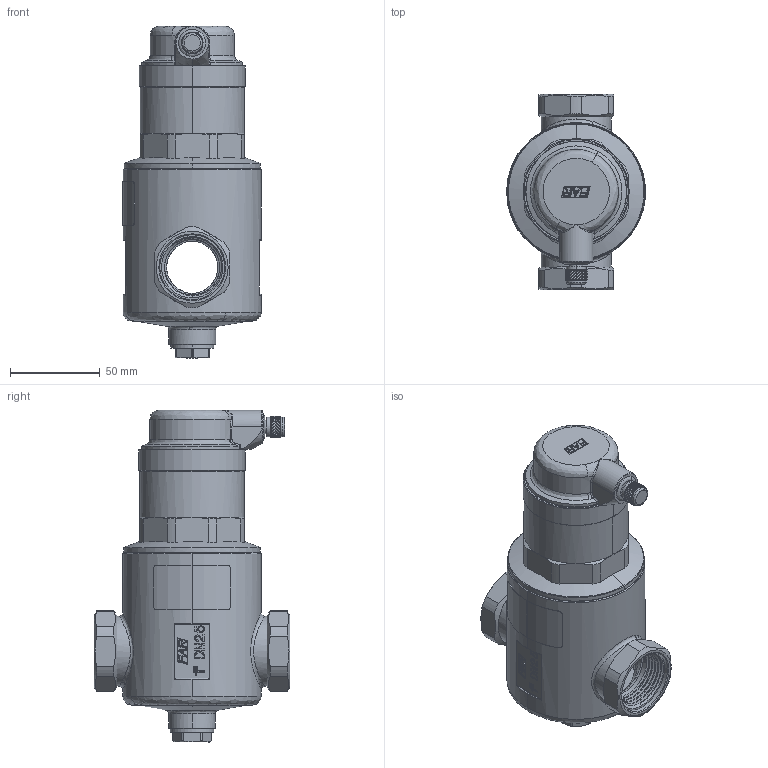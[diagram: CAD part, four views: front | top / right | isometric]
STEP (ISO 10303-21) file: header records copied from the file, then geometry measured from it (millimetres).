
FILE_DESCRIPTION (( 'STEP AP214' ), '1' );
FILE_NAME ('FAR312.STEP', '2022-05-06T13:43:51', ( '' ), ( '' ), 'SwSTEP 2.0', 'SolidWorks 2021', '' );
FILE_SCHEMA (( 'AUTOMOTIVE_DESIGN' ));
Length unit declared in the file: millimetre
Products named in the file (21): 8350 1115; 8350 635; 087stg; 8350 172; 3812asb; 481mnm_F; 1440trm_giallo; 4316asb; 2506asb; 1509trm_giallo; 580mnm_F; 2509asb; 8350 4445; 004stg; 059lme_def; 200lemA; 2507asb; 131mtt; FAR312; 542mnm_F; 1508trm_giallo
Assembly tree (20 placements, depth 4):
  FAR312
    2509asb
      059lme_def
      2507asb
        087stg
      2506asb
        481mnm_F
        8350 1115
    1508trm_giallo
    1509trm_giallo
    131mtt
    8350 4445
    8350 635
    3812asb
      542mnm_F
      8350 172
    1440trm_giallo
    4316asb
      004stg
      580mnm_F
    200lemA
Bounding box: 77.25 x 109 x 184.77 mm (x, y, z)
Volume: 165438.9 mm3; surface area: 118085 mm2
Topology: 14 solids, 52 shells, 2206 faces, 5355 edges, 3197 vertices
Faces by surface type: bspline 1032, cylinder 631, plane 330, cone 213
Entity records: 108989 total; most frequent: CARTESIAN_POINT 66757, ORIENTED_EDGE 10472, EDGE_CURVE 5274, DIRECTION 5265, VERTEX_POINT 3197, B_SPLINE_CURVE_WITH_KNOTS 2978, EDGE_LOOP 2293, FACE_OUTER_BOUND 2206
